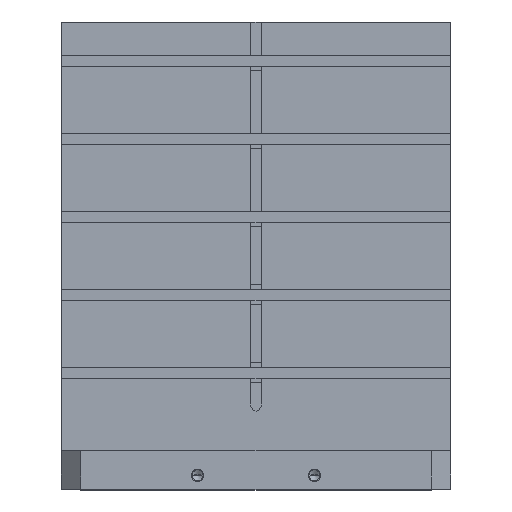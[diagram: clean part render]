
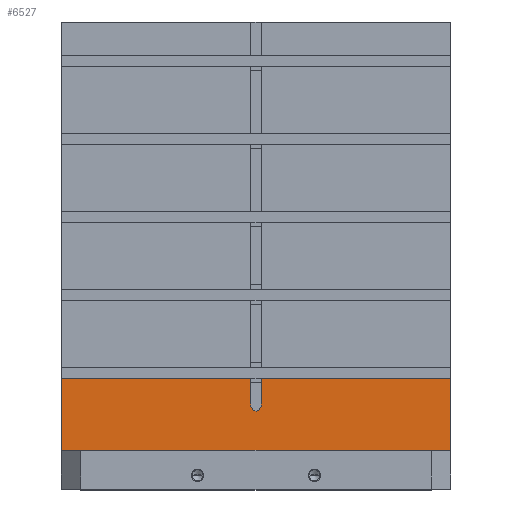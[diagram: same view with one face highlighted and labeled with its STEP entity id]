
A CAD part, top view. The second image highlights one B-rep face of the part: STEP entity #6527.
In plain terms, the highlighted planar face has unit normal (0, 0, 1).
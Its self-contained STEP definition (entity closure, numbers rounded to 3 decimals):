
#69=DIRECTION('',(1.,0.,0.));
#70=VECTOR('',#69,500.);
#71=CARTESIAN_POINT('',(-250.,0.,100.));
#72=LINE('',#71,#70);
#1891=DIRECTION('',(0.,1.,0.));
#1892=VECTOR('',#1891,93.);
#1893=CARTESIAN_POINT('',(250.,0.,100.));
#1894=LINE('',#1893,#1892);
#2191=DIRECTION('',(0.,-1.,0.));
#2192=VECTOR('',#2191,33.);
#2193=CARTESIAN_POINT('',(-7.,93.,100.));
#2194=LINE('',#2193,#2192);
#2195=DIRECTION('',(0.,-1.,0.));
#2196=VECTOR('',#2195,33.);
#2197=CARTESIAN_POINT('',(7.,93.,100.));
#2198=LINE('',#2197,#2196);
#2199=DIRECTION('',(1.,0.,0.));
#2200=VECTOR('',#2199,243.);
#2201=CARTESIAN_POINT('',(7.,93.,100.));
#2202=LINE('',#2201,#2200);
#2203=DIRECTION('',(0.,1.,0.));
#2204=VECTOR('',#2203,93.);
#2205=CARTESIAN_POINT('',(-250.,0.,100.));
#2206=LINE('',#2205,#2204);
#2207=DIRECTION('',(1.,0.,0.));
#2208=VECTOR('',#2207,243.);
#2209=CARTESIAN_POINT('',(-250.,93.,100.));
#2210=LINE('',#2209,#2208);
#2465=CARTESIAN_POINT('',(3.,60.,100.));
#2466=DIRECTION('',(0.,0.,-1.));
#2467=DIRECTION('',(-0.3,-0.954,0.));
#2468=AXIS2_PLACEMENT_3D('',#2465,#2466,#2467);
#2474=CARTESIAN_POINT('',(-3.,60.,100.));
#2475=DIRECTION('',(0.,0.,-1.));
#2476=DIRECTION('',(1.,0.,0.));
#2477=AXIS2_PLACEMENT_3D('',#2474,#2475,#2476);
#2913=CARTESIAN_POINT('',(-250.,0.,100.));
#2914=CARTESIAN_POINT('',(250.,0.,100.));
#2915=VERTEX_POINT('',#2913);
#2916=VERTEX_POINT('',#2914);
#3591=CARTESIAN_POINT('',(-250.,93.,100.));
#3592=VERTEX_POINT('',#3591);
#3595=CARTESIAN_POINT('',(250.,93.,100.));
#3596=VERTEX_POINT('',#3595);
#3763=CARTESIAN_POINT('',(7.,93.,100.));
#3765=VERTEX_POINT('',#3763);
#3769=CARTESIAN_POINT('',(-7.,93.,100.));
#3770=VERTEX_POINT('',#3769);
#3817=CARTESIAN_POINT('',(7.,60.,100.));
#3818=VERTEX_POINT('',#3817);
#3819=CARTESIAN_POINT('',(-7.,60.,100.));
#3820=VERTEX_POINT('',#3819);
#3829=CARTESIAN_POINT('',(0.,50.461,100.));
#3830=VERTEX_POINT('',#3829);
#6506=CARTESIAN_POINT('',(-250.,0.,100.));
#6507=DIRECTION('',(0.,0.,1.));
#6508=DIRECTION('',(1.,0.,0.));
#6509=AXIS2_PLACEMENT_3D('',#6506,#6507,#6508);
#6510=PLANE('',#6509);
#6512=ORIENTED_EDGE('',*,*,#6511,.T.);
#6514=ORIENTED_EDGE('',*,*,#6513,.F.);
#6516=ORIENTED_EDGE('',*,*,#6515,.F.);
#6517=ORIENTED_EDGE('',*,*,#4438,.F.);
#6519=ORIENTED_EDGE('',*,*,#6518,.T.);
#6520=ORIENTED_EDGE('',*,*,#6213,.F.);
#6521=ORIENTED_EDGE('',*,*,#3840,.F.);
#6522=ORIENTED_EDGE('',*,*,#4158,.T.);
#6524=ORIENTED_EDGE('',*,*,#6523,.T.);
#6525=EDGE_LOOP('',(#6512,#6514,#6516,#6517,#6519,#6520,#6521,#6522,#6524));
#6526=FACE_OUTER_BOUND('',#6525,.F.);
#6527=ADVANCED_FACE('',(#6526),#6510,.T.);
#2469=CIRCLE('',#2468,10.);
#2478=CIRCLE('',#2477,10.);
#3840=EDGE_CURVE('',#2915,#2916,#72,.T.);
#4158=EDGE_CURVE('',#2915,#3592,#2206,.T.);
#4438=EDGE_CURVE('',#3765,#3818,#2198,.T.);
#6213=EDGE_CURVE('',#2916,#3596,#1894,.T.);
#6511=EDGE_CURVE('',#3770,#3820,#2194,.T.);
#6513=EDGE_CURVE('',#3830,#3820,#2469,.T.);
#6515=EDGE_CURVE('',#3818,#3830,#2478,.T.);
#6518=EDGE_CURVE('',#3765,#3596,#2202,.T.);
#6523=EDGE_CURVE('',#3592,#3770,#2210,.T.);
